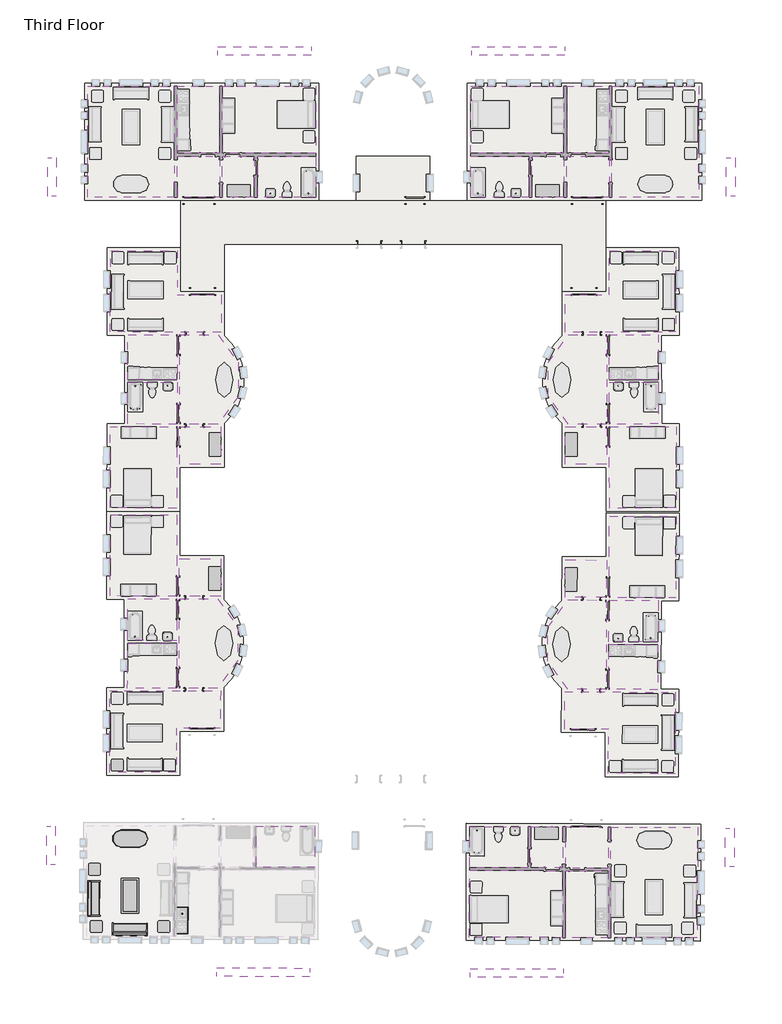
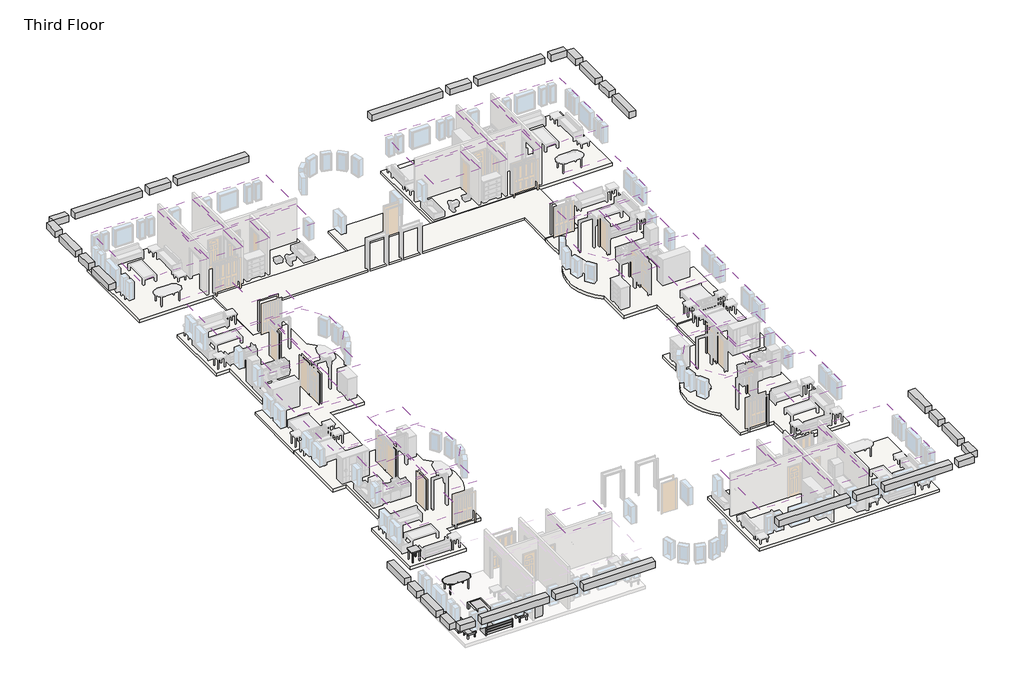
# One storey, part 3 of 5: 43 coverings, 9 slabs, 8 beams, 8 furniture elements, 1 proxy.
"""IFC4 building model written with IfcOpenShell, lengths in millimetres."""

from ifc_helpers import new_model, si_unit, point, frame, frame_2d, origin, place, context, project, spatial, polyline, circle_curve, trimmed, segment, composite_curve, outline, extrude, transform, mapped, element, save
from components import m_kitchenette_medium_1372mm_e05c6bec, m_sofa_1830mm_58d08fc1, m_table_coffee_0915_x_1830_x_0457mm_134cd960, m_table_dining_oval_0915_x_1830mm_a7cfbe21, m_table_end_cb6ea12e, m_table_end_0610_x_0160mm_ccef8dc9

model = new_model("IFC4")

# Units and contexts
model_context = context("Model", 3, world=origin())
ifc_project = project(units=[si_unit("LENGTHUNIT", "METRE", prefix="MILLI")], contexts=[model_context])

# Site, building, storey
site = spatial("IfcSite", under=ifc_project)
building = spatial("IfcBuilding", under=site)
storey = spatial("IfcBuildingStorey", under=building, Name="Third Floor", Elevation=6096.0)

# Beams
placement = place(None, origin())
element("IfcBeam", 1, ObjectType="M_Concrete-Rectangular Beam : 450 x 450", at=placement, inside=storey, context=model_context, shape_type="SweptSolid", body=[
    extrude(outline(polyline([(-1643.3416203, 4481.1188386), (-1643.3416203, 4031.1188386), (-2693.3416203, 4031.1188386), (-2693.3416203, 4481.1188386), (-1643.3416203, 4481.1188386)])), frame((0.0, 0.0, 8694.0), z_axis=(0.0, 0.0, 1.0), x_axis=(1.0, 0.0, 0.0)), (0.0, 0.0, 1.0), 450.0),
    extrude(outline(polyline([(-14885.3416203, 4031.1188386), (-14885.3416203, 4481.1188386), (-10043.3416203, 4481.1188386), (-10043.3416203, 4031.1188386), (-14885.3416203, 4031.1188386)])), frame((0.0, 0.0, 8694.0), z_axis=(0.0, 0.0, 1.0), x_axis=(1.0, 0.0, 0.0)), (0.0, 0.0, 1.0), 450.0),
    extrude(outline(polyline([(-3143.3416203, 4481.1188386), (-3143.3416203, 4031.1188386), (-7693.3416203, 4031.1188386), (-7693.3416203, 4481.1188386), (-3143.3416203, 4481.1188386)])), frame((0.0, 0.0, 8694.0), z_axis=(0.0, 0.0, 1.0), x_axis=(1.0, 0.0, 0.0)), (0.0, 0.0, 1.0), 450.0),
    extrude(outline(polyline([(-8143.3416203, 4481.1188386), (-8143.3416203, 4031.1188386), (-9593.3416203, 4031.1188386), (-9593.3416203, 4481.1188386), (-8143.3416203, 4481.1188386)])), frame((0.0, 0.0, 8694.0), z_axis=(0.0, 0.0, 1.0), x_axis=(1.0, 0.0, 0.0)), (0.0, 0.0, 1.0), 450.0),
])
element("IfcBeam", 2, ObjectType="M_Concrete-Rectangular Beam : 450 x 450", at=placement, inside=storey, context=model_context, shape_type="SweptSolid", body=[
    extrude(outline(polyline([(-1193.3416203, -3289.8811614), (-1643.3416203, -3289.8811614), (-1643.3416203, -1295.3811614), (-1193.3416203, -1295.3811614), (-1193.3416203, -3289.8811614)])), frame((0.0, 0.0, 8694.0), z_axis=(0.0, 0.0, 1.0), x_axis=(1.0, 0.0, 0.0)), (0.0, 0.0, 1.0), 450.0),
    extrude(outline(polyline([(-1643.3416203, 4031.1188386), (-1193.3416203, 4031.1188386), (-1193.3416203, 2981.1188386), (-1643.3416203, 2981.1188386), (-1643.3416203, 4031.1188386)])), frame((0.0, 0.0, 8694.0), z_axis=(0.0, 0.0, 1.0), x_axis=(1.0, 0.0, 0.0)), (0.0, 0.0, 1.0), 450.0),
    extrude(outline(polyline([(-1643.3416203, 2531.1188386), (-1193.3416203, 2531.1188386), (-1193.3416203, 681.1188386), (-1643.3416203, 681.1188386), (-1643.3416203, 2531.1188386)])), frame((0.0, 0.0, 8694.0), z_axis=(0.0, 0.0, 1.0), x_axis=(1.0, 0.0, 0.0)), (0.0, 0.0, 1.0), 450.0),
    extrude(outline(polyline([(-1643.3416203, 231.1188386), (-1193.3416203, 231.1188386), (-1193.3416203, -845.3811614), (-1643.3416203, -845.3811614), (-1643.3416203, 231.1188386)])), frame((0.0, 0.0, 8694.0), z_axis=(0.0, 0.0, 1.0), x_axis=(1.0, 0.0, 0.0)), (0.0, 0.0, 1.0), 450.0),
])
element("IfcBeam", 3, ObjectType="M_Concrete-Rectangular Beam : 450 x 450", at=placement, inside=storey, context=model_context, shape_type="SweptSolid", body=[
    extrude(outline(polyline([(-36458.8416203, 4031.1188386), (-36458.8416203, 4481.1188386), (-35408.8416203, 4481.1188386), (-35408.8416203, 4031.1188386), (-36458.8416203, 4031.1188386)])), frame((0.0, 0.0, 8694.0), z_axis=(0.0, 0.0, 1.0), x_axis=(1.0, 0.0, 0.0)), (0.0, 0.0, 1.0), 450.0),
    extrude(outline(polyline([(-23216.8416203, 4481.1188386), (-23216.8416203, 4031.1188386), (-28058.8416203, 4031.1188386), (-28058.8416203, 4481.1188386), (-23216.8416203, 4481.1188386)])), frame((0.0, 0.0, 8694.0), z_axis=(0.0, 0.0, 1.0), x_axis=(1.0, 0.0, 0.0)), (0.0, 0.0, 1.0), 450.0),
    extrude(outline(polyline([(-34958.8416203, 4031.1188386), (-34958.8416203, 4481.1188386), (-30408.8416203, 4481.1188386), (-30408.8416203, 4031.1188386), (-34958.8416203, 4031.1188386)])), frame((0.0, 0.0, 8694.0), z_axis=(0.0, 0.0, 1.0), x_axis=(1.0, 0.0, 0.0)), (0.0, 0.0, 1.0), 450.0),
    extrude(outline(polyline([(-29958.8416203, 4031.1188386), (-29958.8416203, 4481.1188386), (-28508.8416203, 4481.1188386), (-28508.8416203, 4031.1188386), (-29958.8416203, 4031.1188386)])), frame((0.0, 0.0, 8694.0), z_axis=(0.0, 0.0, 1.0), x_axis=(1.0, 0.0, 0.0)), (0.0, 0.0, 1.0), 450.0),
])
element("IfcBeam", 4, ObjectType="M_Concrete-Rectangular Beam : 450 x 450", at=placement, inside=storey, context=model_context, shape_type="SweptSolid", body=[
    extrude(outline(polyline([(-36458.8416203, -3289.8811614), (-36908.8416203, -3289.8811614), (-36908.8416203, -1295.3811614), (-36458.8416203, -1295.3811614), (-36458.8416203, -3289.8811614)])), frame((0.0, 0.0, 8694.0), z_axis=(0.0, 0.0, 1.0), x_axis=(1.0, 0.0, 0.0)), (0.0, 0.0, 1.0), 450.0),
    extrude(outline(polyline([(-36458.8416203, 2981.1188386), (-36908.8416203, 2981.1188386), (-36908.8416203, 4031.1188386), (-36458.8416203, 4031.1188386), (-36458.8416203, 2981.1188386)])), frame((0.0, 0.0, 8694.0), z_axis=(0.0, 0.0, 1.0), x_axis=(1.0, 0.0, 0.0)), (0.0, 0.0, 1.0), 450.0),
    extrude(outline(polyline([(-36908.8416203, 2531.1188386), (-36458.8416203, 2531.1188386), (-36458.8416203, 681.1188386), (-36908.8416203, 681.1188386), (-36908.8416203, 2531.1188386)])), frame((0.0, 0.0, 8694.0), z_axis=(0.0, 0.0, 1.0), x_axis=(1.0, 0.0, 0.0)), (0.0, 0.0, 1.0), 450.0),
    extrude(outline(polyline([(-36908.8416203, 231.1188386), (-36458.8416203, 231.1188386), (-36458.8416203, -845.3811614), (-36908.8416203, -845.3811614), (-36908.8416203, 231.1188386)])), frame((0.0, 0.0, 8694.0), z_axis=(0.0, 0.0, 1.0), x_axis=(1.0, 0.0, 0.0)), (0.0, 0.0, 1.0), 450.0),
])
element("IfcBeam", 5, ObjectType="M_Concrete-Rectangular Beam : 450 x 450", at=placement, inside=storey, context=model_context, shape_type="SweptSolid", body=[
    extrude(outline(polyline([(-1712.0689607, -43451.2055858), (-1713.3716449, -43901.2037003), (-2763.3672453, -43898.1641037), (-2762.0645611, -43448.1659892), (-1712.0689607, -43451.2055858)])), frame((0.0, 0.0, 8694.0), z_axis=(0.0, 0.0, 1.0), x_axis=(1.0, 0.0, 0.0)), (0.0, 0.0, 1.0), 450.0),
    extrude(outline(polyline([(-14955.3161596, -43862.8700448), (-14954.0134754, -43412.8719303), (-10112.0337638, -43426.888813), (-10113.3364481, -43876.8869274), (-14955.3161596, -43862.8700448)])), frame((0.0, 0.0, 8694.0), z_axis=(0.0, 0.0, 1.0), x_axis=(1.0, 0.0, 0.0)), (0.0, 0.0, 1.0), 450.0),
    extrude(outline(polyline([(-3212.0626755, -43446.863305), (-3213.3653598, -43896.8614194), (-7763.3462948, -43883.6898341), (-7762.0436106, -43433.6917196), (-3212.0626755, -43446.863305)])), frame((0.0, 0.0, 8694.0), z_axis=(0.0, 0.0, 1.0), x_axis=(1.0, 0.0, 0.0)), (0.0, 0.0, 1.0), 450.0),
    extrude(outline(polyline([(-8212.041725, -43432.3890354), (-8213.3444093, -43882.3871498), (-9663.3383336, -43878.1896117), (-9662.0356494, -43428.1914972), (-8212.041725, -43432.3890354)])), frame((0.0, 0.0, 8694.0), z_axis=(0.0, 0.0, 1.0), x_axis=(1.0, 0.0, 0.0)), (0.0, 0.0, 1.0), 450.0),
])
element("IfcBeam", 6, ObjectType="M_Concrete-Rectangular Beam : 450 x 450", at=placement, inside=storey, context=model_context, shape_type="SweptSolid", body=[
    extrude(outline(polyline([(-1690.8757352, -36130.2362615), (-1240.8776207, -36131.5389458), (-1246.6514068, -38126.0305886), (-1696.6495213, -38124.7279044), (-1690.8757352, -36130.2362615)])), frame((0.0, 0.0, 8694.0), z_axis=(0.0, 0.0, 1.0), x_axis=(1.0, 0.0, 0.0)), (0.0, 0.0, 1.0), 450.0),
    extrude(outline(polyline([(-1709.0293641, -42401.2099854), (-1259.0312496, -42402.5126697), (-1262.0708462, -43452.5082701), (-1712.0689607, -43451.2055858), (-1709.0293641, -42401.2099854)])), frame((0.0, 0.0, 8694.0), z_axis=(0.0, 0.0, 1.0), x_axis=(1.0, 0.0, 0.0)), (0.0, 0.0, 1.0), 450.0),
    extrude(outline(polyline([(-1257.7285653, -41952.5145552), (-1707.7266798, -41951.211871), (-1702.3712001, -40101.2196227), (-1252.3730856, -40102.5223069), (-1257.7285653, -41952.5145552)])), frame((0.0, 0.0, 8694.0), z_axis=(0.0, 0.0, 1.0), x_axis=(1.0, 0.0, 0.0)), (0.0, 0.0, 1.0), 450.0),
    extrude(outline(polyline([(-1251.0704013, -39652.5241925), (-1701.0685158, -39651.2215082), (-1697.9522056, -38574.7260188), (-1247.9540911, -38576.0287031), (-1251.0704013, -39652.5241925)])), frame((0.0, 0.0, 8694.0), z_axis=(0.0, 0.0, 1.0), x_axis=(1.0, 0.0, 0.0)), (0.0, 0.0, 1.0), 450.0),
])
element("IfcBeam", 7, ObjectType="M_Concrete-Rectangular Beam : 450 x 450", at=placement, inside=storey, context=model_context, shape_type="SweptSolid", body=[
    extrude(outline(polyline([(-36528.7257646, -43800.4179138), (-36527.4230803, -43350.4197994), (-35477.4274799, -43353.459396), (-35478.7301642, -43803.4575104), (-36528.7257646, -43800.4179138)])), frame((0.0, 0.0, 8694.0), z_axis=(0.0, 0.0, 1.0), x_axis=(1.0, 0.0, 0.0)), (0.0, 0.0, 1.0), 450.0),
    extrude(outline(polyline([(-23285.4785656, -43388.7534549), (-23286.7812498, -43838.7515694), (-28128.7609614, -43824.7346867), (-28127.4582771, -43374.7365723), (-23285.4785656, -43388.7534549)])), frame((0.0, 0.0, 8694.0), z_axis=(0.0, 0.0, 1.0), x_axis=(1.0, 0.0, 0.0)), (0.0, 0.0, 1.0), 450.0),
    extrude(outline(polyline([(-35028.7320497, -43804.7601947), (-35027.4293654, -43354.7620803), (-30477.4484304, -43367.9336656), (-30478.7511147, -43817.93178), (-35028.7320497, -43804.7601947)])), frame((0.0, 0.0, 8694.0), z_axis=(0.0, 0.0, 1.0), x_axis=(1.0, 0.0, 0.0)), (0.0, 0.0, 1.0), 450.0),
    extrude(outline(polyline([(-30028.7530002, -43819.2344643), (-30027.4503159, -43369.2363498), (-28577.4563916, -43373.433888), (-28578.7590758, -43823.4320025), (-30028.7530002, -43819.2344643)])), frame((0.0, 0.0, 8694.0), z_axis=(0.0, 0.0, 1.0), x_axis=(1.0, 0.0, 0.0)), (0.0, 0.0, 1.0), 450.0),
])
element("IfcBeam", 8, ObjectType="M_Concrete-Rectangular Beam : 450 x 450", at=placement, inside=storey, context=model_context, shape_type="SweptSolid", body=[
    extrude(outline(polyline([(-36956.2279692, -36028.1477908), (-36506.2298548, -36029.4504751), (-36512.0036409, -38023.9421179), (-36962.0017554, -38022.6394337), (-36956.2279692, -36028.1477908)])), frame((0.0, 0.0, 8694.0), z_axis=(0.0, 0.0, 1.0), x_axis=(1.0, 0.0, 0.0)), (0.0, 0.0, 1.0), 450.0),
    extrude(outline(polyline([(-36974.3815981, -42299.1215147), (-36524.3834837, -42300.424199), (-36527.4230803, -43350.4197994), (-36977.4211948, -43349.1171151), (-36974.3815981, -42299.1215147)])), frame((0.0, 0.0, 8694.0), z_axis=(0.0, 0.0, 1.0), x_axis=(1.0, 0.0, 0.0)), (0.0, 0.0, 1.0), 450.0),
    extrude(outline(polyline([(-36523.0807994, -41850.4260845), (-36973.0789139, -41849.1234003), (-36967.7234341, -39999.1311519), (-36517.7253197, -40000.4338362), (-36523.0807994, -41850.4260845)])), frame((0.0, 0.0, 8694.0), z_axis=(0.0, 0.0, 1.0), x_axis=(1.0, 0.0, 0.0)), (0.0, 0.0, 1.0), 450.0),
    extrude(outline(polyline([(-36516.4226354, -39550.4357218), (-36966.4207499, -39549.1330375), (-36963.3044396, -38472.6375481), (-36513.3063252, -38473.9402324), (-36516.4226354, -39550.4357218)])), frame((0.0, 0.0, 8694.0), z_axis=(0.0, 0.0, 1.0), x_axis=(1.0, 0.0, 0.0)), (0.0, 0.0, 1.0), 450.0),
])

# Proxy
m_kitchenette_medium_1372mm_shape = m_kitchenette_medium_1372mm_e05c6bec(model_context)
element("IfcBuildingElementProxy", 9, Name="M_Kitchenette - Medium : 1372mm", ObjectType="M_Kitchenette - Medium : 1372mm", at=placement, inside=storey, context=model_context, shape_type="MappedRepresentation", body=[
    mapped(m_kitchenette_medium_1372mm_shape, transform((-30225.732172, -40927.3256482, 6096.0), x_axis=(0.0028948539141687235, 0.9999958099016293, 0.0), y_axis=(-0.9999958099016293, 0.0028948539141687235, 0.0), z_axis=(0.0, 0.0, 1.0))),
])

# Coverings
element("IfcCovering", 10, ObjectType="Plain", at=placement, inside=storey, context=model_context, shape_type="SweptSolid", body=[
    extrude(outline(polyline([(-14935.3416203, 2406.1188386), (-10086.8416203, 2406.1188386), (-10086.8416203, -1070.3811614), (-14935.3416203, -1070.3811614), (-14935.3416203, 2406.1188386)])), frame((0.0, 0.0, 8686.0), z_axis=(0.0, 0.0, 1.0), x_axis=(1.0, 0.0, 0.0)), (0.0, 0.0, 1.0), 57.0),
])
element("IfcCovering", 11, ObjectType="Plain", at=placement, inside=storey, context=model_context, shape_type="SweptSolid", body=[
    extrude(outline(polyline([(-9951.3416203, -1070.3811614), (-9951.3416203, 2406.1188386), (-7733.0916203, 2406.1188386), (-7733.0916203, -1070.3811614), (-9951.3416203, -1070.3811614)])), frame((0.0, 0.0, 8686.0), z_axis=(0.0, 0.0, 1.0), x_axis=(1.0, 0.0, 0.0)), (0.0, 0.0, 1.0), 57.0),
])
element("IfcCovering", 12, ObjectType="Plain", at=placement, inside=storey, context=model_context, shape_type="SweptSolid", body=[
    extrude(outline(polyline([(-7597.5916203, -3339.8811614), (-7597.5916203, 2406.1188386), (-3093.3416203, 2406.1188386), (-3093.3416203, -3339.8811614), (-7597.5916203, -3339.8811614)])), frame((0.0, 0.0, 8686.0), z_axis=(0.0, 0.0, 1.0), x_axis=(1.0, 0.0, 0.0)), (0.0, 0.0, 1.0), 57.0),
])
element("IfcCovering", 13, ObjectType="Plain", at=placement, inside=storey, context=model_context, shape_type="SweptSolid", body=[
    extrude(outline(polyline([(-7733.0916203, -3339.8811614), (-9951.3416203, -3339.8811614), (-9951.3416203, -1205.8811614), (-7733.0916203, -1205.8811614), (-7733.0916203, -3339.8811614)])), frame((0.0, 0.0, 8686.0), z_axis=(0.0, 0.0, 1.0), x_axis=(1.0, 0.0, 0.0)), (0.0, 0.0, 1.0), 57.0),
])
element("IfcCovering", 14, ObjectType="Plain", at=placement, inside=storey, context=model_context, shape_type="SweptSolid", body=[
    extrude(outline(polyline([(-11887.3416203, -1205.8811614), (-11887.3416203, -3339.8811614), (-14935.3416203, -3339.8811614), (-14935.3416203, -1205.8811614), (-11887.3416203, -1205.8811614)])), frame((0.0, 0.0, 8686.0), z_axis=(0.0, 0.0, 1.0), x_axis=(1.0, 0.0, 0.0)), (0.0, 0.0, 1.0), 57.0),
])
element("IfcCovering", 15, ObjectType="Plain", at=placement, inside=storey, context=model_context, shape_type="SweptSolid", body=[
    extrude(outline(polyline([(-10086.8416203, -3339.8811614), (-11751.8416203, -3339.8811614), (-11751.8416203, -1205.8811614), (-10086.8416203, -1205.8811614), (-10086.8416203, -3339.8811614)])), frame((0.0, 0.0, 8686.0), z_axis=(0.0, 0.0, 1.0), x_axis=(1.0, 0.0, 0.0)), (0.0, 0.0, 1.0), 57.0),
])
element("IfcCovering", 16, ObjectType="Plain", at=placement, inside=storey, context=model_context, shape_type="SweptSolid", body=[
    extrude(outline(polyline([(-7719.603401, -17382.7647995), (-7726.8533934, -17382.7752934), (-7729.9194088, -15264.5275123), (-5002.0722663, -15260.5791445), (-5002.0617724, -15267.829137), (-4262.662547, -15266.7589083), (-4256.5515039, -19488.7544857), (-7716.5478795, -19493.7625882), (-7719.603401, -17382.7647995)])), frame((0.0, 0.0, 8687.0), z_axis=(0.0, 0.0, 1.0), x_axis=(1.0, 0.0, 0.0)), (0.0, 0.0, 1.0), 57.0),
])
element("IfcCovering", 17, ObjectType="Plain", at=placement, inside=storey, context=model_context, shape_type="SweptSolid", body=[
    extrude(outline(polyline([(-7730.1155353, -15129.0276542), (-7733.2504483, -12963.179923), (-5180.4031225, -12959.4848553), (-5177.2682095, -15125.3325865), (-7730.1155353, -15129.0276542)])), frame((0.0, 0.0, 8687.0), z_axis=(0.0, 0.0, 1.0), x_axis=(1.0, 0.0, 0.0)), (0.0, 0.0, 1.0), 57.0),
])
element("IfcCovering", 18, ObjectType="Plain", at=placement, inside=storey, context=model_context, shape_type="SweptSolid", body=[
    extrude(outline(polyline([(-7733.4465749, -12827.680065), (-7736.8265375, -10492.5325111), (-5183.9792116, -10488.8374433), (-5180.599249, -12823.9849972), (-7733.4465749, -12827.680065)])), frame((0.0, 0.0, 8687.0), z_axis=(0.0, 0.0, 1.0), x_axis=(1.0, 0.0, 0.0)), (0.0, 0.0, 1.0), 57.0),
])
element("IfcCovering", 19, ObjectType="Plain", at=placement, inside=storey, context=model_context, shape_type="SweptSolid", body=[
    extrude(outline(polyline([(-10015.770277, -10360.3309807), (-10018.5829924, -8417.0830163), (-7732.585387, -8413.7741948), (-7735.8942085, -6127.7765894), (-4275.8978329, -6122.7684869), (-4269.7867899, -10344.7640643), (-5009.1860154, -10345.8342929), (-5009.1755215, -10353.0842853), (-10015.770277, -10360.3309807)])), frame((0.0, 0.0, 8687.0), z_axis=(0.0, 0.0, 1.0), x_axis=(1.0, 0.0, 0.0)), (0.0, 0.0, 1.0), 57.0),
])
element("IfcCovering", 20, ObjectType="Plain", at=placement, inside=storey, context=model_context, shape_type="SweptSolid", body=[
    extrude(outline(composite_curve([segment(polyline([(-9871.5226854, -10495.6223343), (-7872.3263955, -10492.7286377), (-7865.6153934, -15129.2237808), (-9864.8116833, -15132.1174775)]), True, "CONTINUOUS"), segment(trimmed(circle_curve(frame_2d((-8171.1580789, -12811.413604)), 2873.0), [point((-9864.8116833, -15132.1174775))], [point((-9871.5226854, -10495.6223343))], False, "CARTESIAN"), True, "CONTINUOUS")], self_intersect=False)), frame((0.0, 0.0, 8687.0), z_axis=(0.0, 0.0, 1.0), x_axis=(1.0, 0.0, 0.0)), (0.0, 0.0, 1.0), 57.0),
])
element("IfcCovering", 21, ObjectType="Plain", at=placement, inside=storey, context=model_context, shape_type="SweptSolid", body=[
    extrude(outline(polyline([(-10008.6670217, -15267.8258399), (-7865.4192668, -15264.7236389), (-7862.6065515, -17207.9716033), (-10005.8543064, -17211.0738043), (-10008.6670217, -15267.8258399)])), frame((0.0, 0.0, 8687.0), z_axis=(0.0, 0.0, 1.0), x_axis=(1.0, 0.0, 0.0)), (0.0, 0.0, 1.0), 57.0),
])
element("IfcCovering", 22, ObjectType="Plain", at=placement, inside=storey, context=model_context, shape_type="SweptSolid", body=[
    extrude(outline(polyline([(-22978.8416203, 2406.1188386), (-22978.8416203, -1070.3811614), (-27827.3416203, -1070.3811614), (-27827.3416203, 2406.1188386), (-22978.8416203, 2406.1188386)])), frame((0.0, 0.0, 8686.0), z_axis=(0.0, 0.0, 1.0), x_axis=(1.0, 0.0, 0.0)), (0.0, 0.0, 1.0), 57.0),
])
element("IfcCovering", 23, ObjectType="Plain", at=placement, inside=storey, context=model_context, shape_type="SweptSolid", body=[
    extrude(outline(polyline([(-27962.8416203, -1070.3811614), (-30181.0916203, -1070.3811614), (-30181.0916203, 2406.1188386), (-27962.8416203, 2406.1188386), (-27962.8416203, -1070.3811614)])), frame((0.0, 0.0, 8686.0), z_axis=(0.0, 0.0, 1.0), x_axis=(1.0, 0.0, 0.0)), (0.0, 0.0, 1.0), 57.0),
])
element("IfcCovering", 24, ObjectType="Plain", at=placement, inside=storey, context=model_context, shape_type="SweptSolid", body=[
    extrude(outline(polyline([(-30316.5916203, -3339.8811614), (-34820.8416203, -3339.8811614), (-34820.8416203, 2406.1188386), (-30316.5916203, 2406.1188386), (-30316.5916203, -3339.8811614)])), frame((0.0, 0.0, 8686.0), z_axis=(0.0, 0.0, 1.0), x_axis=(1.0, 0.0, 0.0)), (0.0, 0.0, 1.0), 57.0),
])
element("IfcCovering", 25, ObjectType="Plain", at=placement, inside=storey, context=model_context, shape_type="SweptSolid", body=[
    extrude(outline(polyline([(-30181.0916203, -3339.8811614), (-30181.0916203, -1205.8811614), (-27962.8416203, -1205.8811614), (-27962.8416203, -3339.8811614), (-30181.0916203, -3339.8811614)])), frame((0.0, 0.0, 8686.0), z_axis=(0.0, 0.0, 1.0), x_axis=(1.0, 0.0, 0.0)), (0.0, 0.0, 1.0), 57.0),
])
element("IfcCovering", 26, ObjectType="Plain", at=placement, inside=storey, context=model_context, shape_type="SweptSolid", body=[
    extrude(outline(polyline([(-26026.8416203, -1205.8811614), (-22978.8416203, -1205.8811614), (-22978.8416203, -3339.8811614), (-26026.8416203, -3339.8811614), (-26026.8416203, -1205.8811614)])), frame((0.0, 0.0, 8686.0), z_axis=(0.0, 0.0, 1.0), x_axis=(1.0, 0.0, 0.0)), (0.0, 0.0, 1.0), 57.0),
])
element("IfcCovering", 27, ObjectType="Plain", at=placement, inside=storey, context=model_context, shape_type="SweptSolid", body=[
    extrude(outline(polyline([(-27827.3416203, -3339.8811614), (-27827.3416203, -1205.8811614), (-26162.3416203, -1205.8811614), (-26162.3416203, -3339.8811614), (-27827.3416203, -3339.8811614)])), frame((0.0, 0.0, 8686.0), z_axis=(0.0, 0.0, 1.0), x_axis=(1.0, 0.0, 0.0)), (0.0, 0.0, 1.0), 57.0),
])
element("IfcCovering", 28, ObjectType="Plain", at=placement, inside=storey, context=model_context, shape_type="SweptSolid", body=[
    extrude(outline(polyline([(-30194.5798396, -17382.7647995), (-30197.6353611, -19493.7625882), (-33657.6317367, -19488.7544857), (-33651.5206937, -15266.7589083), (-32912.1214682, -15267.829137), (-32912.1109744, -15260.5791445), (-30184.2638319, -15264.5275123), (-30187.3298472, -17382.7752934), (-30194.5798396, -17382.7647995)])), frame((0.0, 0.0, 8687.0), z_axis=(0.0, 0.0, 1.0), x_axis=(1.0, 0.0, 0.0)), (0.0, 0.0, 1.0), 57.0),
])
element("IfcCovering", 29, ObjectType="Plain", at=placement, inside=storey, context=model_context, shape_type="SweptSolid", body=[
    extrude(outline(polyline([(-30184.0677053, -15129.0276542), (-32736.9150311, -15125.3325865), (-32733.7801182, -12959.4848553), (-30180.9327923, -12963.179923), (-30184.0677053, -15129.0276542)])), frame((0.0, 0.0, 8687.0), z_axis=(0.0, 0.0, 1.0), x_axis=(1.0, 0.0, 0.0)), (0.0, 0.0, 1.0), 57.0),
])
element("IfcCovering", 30, ObjectType="Plain", at=placement, inside=storey, context=model_context, shape_type="SweptSolid", body=[
    extrude(outline(polyline([(-30180.7366658, -12827.680065), (-32733.5839916, -12823.9849972), (-32730.204029, -10488.8374433), (-30177.3567032, -10492.5325111), (-30180.7366658, -12827.680065)])), frame((0.0, 0.0, 8687.0), z_axis=(0.0, 0.0, 1.0), x_axis=(1.0, 0.0, 0.0)), (0.0, 0.0, 1.0), 57.0),
])
element("IfcCovering", 31, ObjectType="Plain", at=placement, inside=storey, context=model_context, shape_type="SweptSolid", body=[
    extrude(outline(polyline([(-27898.4129637, -10360.3309807), (-32905.0077191, -10353.0842853), (-32904.9972253, -10345.8342929), (-33644.3964507, -10344.7640643), (-33638.2854077, -6122.7684869), (-30178.2890322, -6127.7765894), (-30181.5978537, -8413.7741948), (-27895.6002483, -8417.0830163), (-27898.4129637, -10360.3309807)])), frame((0.0, 0.0, 8687.0), z_axis=(0.0, 0.0, 1.0), x_axis=(1.0, 0.0, 0.0)), (0.0, 0.0, 1.0), 57.0),
])
element("IfcCovering", 32, ObjectType="Plain", at=placement, inside=storey, context=model_context, shape_type="SweptSolid", body=[
    extrude(outline(composite_curve([segment(trimmed(circle_curve(frame_2d((-29743.0251618, -12811.413604)), 2873.0), [point((-28042.6605552, -10495.6223343))], [point((-28049.3715573, -15132.1174775))], False, "CARTESIAN"), True, "CONTINUOUS"), segment(polyline([(-28049.3715573, -15132.1174775), (-30048.5678472, -15129.2237808), (-30041.8568451, -10492.7286377), (-28042.6605552, -10495.6223343)]), True, "CONTINUOUS")], self_intersect=False)), frame((0.0, 0.0, 8687.0), z_axis=(0.0, 0.0, 1.0), x_axis=(1.0, 0.0, 0.0)), (0.0, 0.0, 1.0), 57.0),
])
element("IfcCovering", 33, ObjectType="Plain", at=placement, inside=storey, context=model_context, shape_type="SweptSolid", body=[
    extrude(outline(polyline([(-27905.5162189, -15267.8258399), (-27908.3289343, -17211.0738043), (-30051.5766892, -17207.9716033), (-30048.7639738, -15264.7236389), (-27905.5162189, -15267.8258399)])), frame((0.0, 0.0, 8687.0), z_axis=(0.0, 0.0, 1.0), x_axis=(1.0, 0.0, 0.0)), (0.0, 0.0, 1.0), 57.0),
])
element("IfcCovering", 34, ObjectType="Plain", at=placement, inside=storey, context=model_context, shape_type="SweptSolid", body=[
    extrude(outline(polyline([(-14999.3091283, -41787.7339965), (-14989.2451686, -38311.2485634), (-10140.7654843, -38325.2842626), (-10150.829444, -41801.7696957), (-14999.3091283, -41787.7339965)])), frame((0.0, 0.0, 8686.0), z_axis=(0.0, 0.0, 1.0), x_axis=(1.0, 0.0, 0.0)), (0.0, 0.0, 1.0), 57.0),
])
element("IfcCovering", 35, ObjectType="Plain", at=placement, inside=storey, context=model_context, shape_type="SweptSolid", body=[
    extrude(outline(polyline([(-10005.2660521, -38325.6765153), (-7787.0253468, -38332.098025), (-7797.0893064, -41808.5834581), (-10015.3300117, -41802.1619484), (-10005.2660521, -38325.6765153)])), frame((0.0, 0.0, 8686.0), z_axis=(0.0, 0.0, 1.0), x_axis=(1.0, 0.0, 0.0)), (0.0, 0.0, 1.0), 57.0),
])
element("IfcCovering", 36, ObjectType="Plain", at=placement, inside=storey, context=model_context, shape_type="SweptSolid", body=[
    extrude(outline(polyline([(-7644.9560436, -36062.9997871), (-3140.7249168, -36076.0389329), (-3157.3587474, -41822.0148566), (-7661.5898742, -41808.9757108), (-7644.9560436, -36062.9997871)])), frame((0.0, 0.0, 8686.0), z_axis=(0.0, 0.0, 1.0), x_axis=(1.0, 0.0, 0.0)), (0.0, 0.0, 1.0), 57.0),
])
element("IfcCovering", 37, ObjectType="Plain", at=placement, inside=storey, context=model_context, shape_type="SweptSolid", body=[
    extrude(outline(polyline([(-7780.4554758, -36062.6075344), (-7786.6330941, -38196.5985928), (-10004.8737994, -38190.1770831), (-9998.6961811, -36056.1860247), (-7780.4554758, -36062.6075344)])), frame((0.0, 0.0, 8686.0), z_axis=(0.0, 0.0, 1.0), x_axis=(1.0, 0.0, 0.0)), (0.0, 0.0, 1.0), 57.0),
])
element("IfcCovering", 38, ObjectType="Plain", at=placement, inside=storey, context=model_context, shape_type="SweptSolid", body=[
    extrude(outline(polyline([(-11940.8656874, -38184.5726459), (-14988.8529159, -38175.7491311), (-14982.6752977, -36041.7580728), (-11934.6880691, -36050.5815875), (-11940.8656874, -38184.5726459)])), frame((0.0, 0.0, 8686.0), z_axis=(0.0, 0.0, 1.0), x_axis=(1.0, 0.0, 0.0)), (0.0, 0.0, 1.0), 57.0),
])
element("IfcCovering", 39, ObjectType="Plain", at=placement, inside=storey, context=model_context, shape_type="SweptSolid", body=[
    extrude(outline(polyline([(-10134.1956134, -36055.793772), (-10140.3732316, -38189.7848304), (-11805.3662551, -38184.9648986), (-11799.1886369, -36050.9738403), (-10134.1956134, -36055.793772)])), frame((0.0, 0.0, 8686.0), z_axis=(0.0, 0.0, 1.0), x_axis=(1.0, 0.0, 0.0)), (0.0, 0.0, 1.0), 57.0),
])
element("IfcCovering", 40, ObjectType="Plain", at=placement, inside=storey, context=model_context, shape_type="SweptSolid", body=[
    extrude(outline(polyline([(-7726.3152164, -22019.8217838), (-7717.1486774, -19908.8416857), (-4257.1812973, -19923.8659512), (-4275.5143752, -24145.8261474), (-5014.9074043, -24142.6154706), (-5014.9388858, -24149.8654022), (-7742.7631684, -24138.020332), (-7733.565148, -22019.7903023), (-7726.3152164, -22019.8217838)])), frame((0.0, 0.0, 8687.0), z_axis=(0.0, 0.0, 1.0), x_axis=(1.0, 0.0, 0.0)), (0.0, 0.0, 1.0), 57.0),
])
element("IfcCovering", 41, ObjectType="Plain", at=placement, inside=storey, context=model_context, shape_type="SweptSolid", body=[
    extrude(outline(polyline([(-7743.3515464, -24273.5190546), (-5190.525614, -24284.6042269), (-5199.9303266, -26450.4338079), (-7752.756259, -26439.3486356), (-7743.3515464, -24273.5190546)])), frame((0.0, 0.0, 8687.0), z_axis=(0.0, 0.0, 1.0), x_axis=(1.0, 0.0, 0.0)), (0.0, 0.0, 1.0), 57.0),
])
element("IfcCovering", 42, ObjectType="Plain", at=placement, inside=storey, context=model_context, shape_type="SweptSolid", body=[
    extrude(outline(polyline([(-7753.3446371, -26574.8473581), (-5200.5187046, -26585.9325305), (-5210.6585641, -28921.0605153), (-7763.4844965, -28909.975343), (-7753.3446371, -26574.8473581)])), frame((0.0, 0.0, 8687.0), z_axis=(0.0, 0.0, 1.0), x_axis=(1.0, 0.0, 0.0)), (0.0, 0.0, 1.0), 57.0),
])
element("IfcCovering", 43, ObjectType="Plain", at=placement, inside=storey, context=model_context, shape_type="SweptSolid", body=[
    extrude(outline(polyline([(-10042.8013912, -29035.5791103), (-5036.248592, -29057.3191357), (-5036.2800734, -29064.5690674), (-4296.8870443, -29067.7797442), (-4315.2201221, -33289.7399404), (-7775.1875022, -33274.7156749), (-7765.2610655, -30988.7372266), (-10051.2395137, -30978.8107899), (-10042.8013912, -29035.5791103)])), frame((0.0, 0.0, 8687.0), z_axis=(0.0, 0.0, 1.0), x_axis=(1.0, 0.0, 0.0)), (0.0, 0.0, 1.0), 57.0),
])
element("IfcCovering", 44, ObjectType="Plain", at=placement, inside=storey, context=model_context, shape_type="SweptSolid", body=[
    extrude(outline(composite_curve([segment(trimmed(circle_curve(frame_2d((-8191.1013961, -26589.84664)), 2873.0), [point((-9898.1627553, -28900.7058992))], [point((-9878.0298052, -24264.2496108))], False, "CARTESIAN"), True, "CONTINUOUS"), segment(polyline([(-9878.0298052, -24264.2496108), (-7878.850269, -24272.9306765), (-7898.9832191, -28909.3869649), (-9898.1627553, -28900.7058992)]), True, "CONTINUOUS")], self_intersect=False)), frame((0.0, 0.0, 8687.0), z_axis=(0.0, 0.0, 1.0), x_axis=(1.0, 0.0, 0.0)), (0.0, 0.0, 1.0), 57.0),
])
element("IfcCovering", 45, ObjectType="Plain", at=placement, inside=storey, context=model_context, shape_type="SweptSolid", body=[
    extrude(outline(polyline([(-10021.491685, -24128.1253768), (-10013.0535624, -22184.8936972), (-7869.8237684, -22194.2002744), (-7878.2618909, -24137.431954), (-10021.491685, -24128.1253768)])), frame((0.0, 0.0, 8687.0), z_axis=(0.0, 0.0, 1.0), x_axis=(1.0, 0.0, 0.0)), (0.0, 0.0, 1.0), 57.0),
])
element("IfcCovering", 46, ObjectType="Plain", at=placement, inside=storey, context=model_context, shape_type="SweptSolid", body=[
    extrude(outline(polyline([(-26080.3064415, -38143.640859), (-26074.1288232, -36009.6498006), (-23026.1415946, -36018.4733154), (-23032.3192129, -38152.4643737), (-26080.3064415, -38143.640859)])), frame((0.0, 0.0, 8686.0), z_axis=(0.0, 0.0, 1.0), x_axis=(1.0, 0.0, 0.0)), (0.0, 0.0, 1.0), 57.0),
])
element("IfcCovering", 47, ObjectType="Plain", at=placement, inside=storey, context=model_context, shape_type="SweptSolid", body=[
    extrude(outline(polyline([(-30201.1974826, -21954.7600102), (-30193.9474902, -21954.7705041), (-30197.0135056, -24073.0182852), (-32924.8606481, -24069.0699174), (-32924.8501542, -24061.819925), (-33664.2493797, -24060.7496964), (-33658.1383367, -19838.7541191), (-30198.1419611, -19843.7622216), (-30201.1974826, -21954.7600102)])), frame((0.0, 0.0, 8687.0), z_axis=(0.0, 0.0, 1.0), x_axis=(1.0, 0.0, 0.0)), (0.0, 0.0, 1.0), 57.0),
])
element("IfcCovering", 48, ObjectType="Plain", at=placement, inside=storey, context=model_context, shape_type="SweptSolid", body=[
    extrude(outline(polyline([(-30197.2096321, -24208.5181432), (-30200.3445451, -26374.3658745), (-32753.1918709, -26370.6708067), (-32750.056958, -24204.8230755), (-30197.2096321, -24208.5181432)])), frame((0.0, 0.0, 8687.0), z_axis=(0.0, 0.0, 1.0), x_axis=(1.0, 0.0, 0.0)), (0.0, 0.0, 1.0), 57.0),
])
element("IfcCovering", 49, ObjectType="Plain", at=placement, inside=storey, context=model_context, shape_type="SweptSolid", body=[
    extrude(outline(polyline([(-30200.5406716, -26509.8657325), (-30203.9206342, -28845.0132864), (-32756.7679601, -28841.3182186), (-32753.3879975, -26506.1706647), (-30200.5406716, -26509.8657325)])), frame((0.0, 0.0, 8687.0), z_axis=(0.0, 0.0, 1.0), x_axis=(1.0, 0.0, 0.0)), (0.0, 0.0, 1.0), 57.0),
])
element("IfcCovering", 50, ObjectType="Plain", at=placement, inside=storey, context=model_context, shape_type="SweptSolid", body=[
    extrude(outline(polyline([(-27925.3691479, -28983.8114721), (-27928.1818632, -30927.0594365), (-30214.1794686, -30923.750615), (-30217.4882901, -33209.7482204), (-33677.4846656, -33204.7401178), (-33671.3736226, -28982.7445405), (-32931.9743972, -28983.8147691), (-32931.9639033, -28976.5647767), (-27925.3691479, -28983.8114721)])), frame((0.0, 0.0, 8687.0), z_axis=(0.0, 0.0, 1.0), x_axis=(1.0, 0.0, 0.0)), (0.0, 0.0, 1.0), 57.0),
])
element("IfcCovering", 51, ObjectType="Plain", at=placement, inside=storey, context=model_context, shape_type="SweptSolid", body=[
    extrude(outline(composite_curve([segment(polyline([(-28069.2244863, -28848.1031096), (-30068.4207762, -28845.209413), (-30061.7097741, -24208.7142698), (-28062.5134842, -24211.6079665)]), True, "CONTINUOUS"), segment(trimmed(circle_curve(frame_2d((-29762.8780907, -26527.3992362)), 2873.0), [point((-28062.5134842, -24211.6079665))], [point((-28069.2244863, -28848.1031096))], False, "CARTESIAN"), True, "CONTINUOUS")], self_intersect=False)), frame((0.0, 0.0, 8687.0), z_axis=(0.0, 0.0, 1.0), x_axis=(1.0, 0.0, 0.0)), (0.0, 0.0, 1.0), 57.0),
])
element("IfcCovering", 52, ObjectType="Plain", at=placement, inside=storey, context=model_context, shape_type="SweptSolid", body=[
    extrude(outline(polyline([(-27918.2658926, -24076.3166128), (-30061.5136475, -24073.2144117), (-30058.7009321, -22129.9664473), (-27915.4531772, -22133.0686484), (-27918.2658926, -24076.3166128)])), frame((0.0, 0.0, 8687.0), z_axis=(0.0, 0.0, 1.0), x_axis=(1.0, 0.0, 0.0)), (0.0, 0.0, 1.0), 57.0),
])

# Furniture
m_sofa_1830mm_shape = m_sofa_1830mm_58d08fc1(model_context)
element("IfcFurniture", 53, ObjectType="M_Sofa : 1830mm", at=placement, inside=storey, context=model_context, shape_type="MappedRepresentation", body=[
    mapped(m_sofa_1830mm_shape, transform((-32562.8997947, -41230.7335351, 6096.0), x_axis=(-0.9999958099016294, 0.0028948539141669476, 0.0), y_axis=(-0.0028948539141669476, -0.9999958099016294, 0.0), z_axis=(0.0, 0.0, 1.0))),
])
element("IfcFurniture", 54, ObjectType="M_Sofa : 1830mm", at=placement, inside=storey, context=model_context, shape_type="MappedRepresentation", body=[
    mapped(m_sofa_1830mm_shape, transform((-34355.4280294, -39842.8427064, 6096.0), x_axis=(0.0028948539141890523, 0.9999958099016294, 0.0), y_axis=(-0.9999958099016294, 0.0028948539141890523, 0.0), z_axis=(0.0, 0.0, 1.0))),
])
m_table_coffee_0915_x_1830_x_0457mm_shape = m_table_coffee_0915_x_1830_x_0457mm_134cd960(model_context)
element("IfcFurniture", 55, ObjectType="M_Table-Coffee : 0915 x 1830 x 0457mm", at=placement, inside=storey, context=model_context, shape_type="MappedRepresentation", body=[
    mapped(m_table_coffee_0915_x_1830_x_0457mm_shape, transform((-32723.8138427, -39618.1492872, 6096.0), x_axis=(-0.0028948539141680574, -0.9999958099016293, 0.0), y_axis=(0.9999958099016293, -0.0028948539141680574, 0.0), z_axis=(0.0, 0.0, 1.0))),
])
m_table_dining_oval_0915_x_1830mm_shape = m_table_dining_oval_0915_x_1830mm_a7cfbe21(model_context)
element("IfcFurniture", 56, ObjectType="M_Table-Dining Oval : 0915 x 1830mm", at=placement, inside=storey, context=model_context, shape_type="MappedRepresentation", body=[
    mapped(m_table_dining_oval_0915_x_1830mm_shape, transform((-33022.9144028, -37024.136693, 6096.0), x_axis=(-0.9999958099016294, 0.0028948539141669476, 0.0), y_axis=(-0.0028948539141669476, -0.9999958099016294, 0.0), z_axis=(0.0, 0.0, 1.0))),
])
m_table_end_shape = m_table_end_cb6ea12e(model_context)
element("IfcFurniture", 57, ObjectType="M_Table-End : 0610 x 0160mm altered height", at=placement, inside=storey, context=model_context, shape_type="MappedRepresentation", body=[
    mapped(m_table_end_shape, transform((-30569.1071738, -41085.2587623, 6096.0), x_axis=(-0.9999958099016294, 0.0028948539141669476, 0.0), y_axis=(-0.0028948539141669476, -0.9999958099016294, 0.0), z_axis=(0.0, 0.0, 1.0))),
])
element("IfcFurniture", 58, ObjectType="M_Table-End : 0610 x 0160mm altered height", at=placement, inside=storey, context=model_context, shape_type="MappedRepresentation", body=[
    mapped(m_table_end_shape, transform((-34069.0925084, -41075.1267736, 6096.0), x_axis=(-0.9999958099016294, 0.0028948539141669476, 0.0), y_axis=(-0.0028948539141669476, -0.9999958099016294, 0.0), z_axis=(0.0, 0.0, 1.0))),
])
element("IfcFurniture", 59, ObjectType="M_Table-End : 0610 x 0160mm altered height", at=placement, inside=storey, context=model_context, shape_type="MappedRepresentation", body=[
    mapped(m_table_end_shape, transform((-34160.490031, -38103.349739, 6096.0), x_axis=(-0.9999958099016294, 0.0028948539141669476, 0.0), y_axis=(-0.0028948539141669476, -0.9999958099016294, 0.0), z_axis=(0.0, 0.0, 1.0))),
])
m_table_end_0610_x_0160mm_shape = m_table_end_0610_x_0160mm_ccef8dc9(model_context)
element("IfcFurniture", 60, ObjectType="M_Table-End : 0610 x 0160mm", at=placement, inside=storey, context=model_context, shape_type="MappedRepresentation", body=[
    mapped(m_table_end_0610_x_0160mm_shape, transform((-33139.1100473, -32531.7850414, 6096.0), x_axis=(-0.0014474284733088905, -0.9999989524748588, 0.0), y_axis=(0.9999989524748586, -0.0014474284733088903, 0.0), z_axis=(0.0, 0.0, 0.9999999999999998))),
])

# Slabs
element("IfcSlab", 61, ObjectType="160mm Concrete With 50mm Metal Deck", at=placement, inside=storey, context=model_context, shape_type="SweptSolid", body=[
    extrude(outline(polyline([(-2928.3416203, 2571.1188386), (-2928.3416203, -3504.8811614), (-15100.3416203, -3504.8811614), (-15100.3416203, 2571.1188386), (-2928.3416203, 2571.1188386)])), frame((0.0, 0.0, 5886.0), z_axis=(0.0, 0.0, 1.0), x_axis=(1.0, 0.0, 0.0)), (0.0, 0.0, 1.0), 210.0),
])
element("IfcSlab", 62, ObjectType="160mm Concrete With 50mm Metal Deck", at=placement, inside=storey, context=model_context, shape_type="SweptSolid", body=[
    extrude(outline(composite_curve([segment(polyline([(-4091.3128511, -19653.5154871), (-7881.308881, -19659.0012411), (-7884.6177025, -17373.0036357), (-10170.6153078, -17376.3124572), (-10173.9161954, -15095.7962179)]), True, "CONTINUOUS"), segment(trimmed(circle_curve(frame_2d((-8171.1580789, -12811.413604)), 3038.0), [point((-10173.9161954, -15095.7962179))], [point((-10180.5207576, -10532.8382541))], False, "CARTESIAN"), True, "CONTINUOUS"), segment(polyline([(-10180.5207576, -10532.8382541), (-10183.8216452, -8252.3220148), (-7897.8240398, -8249.0131933), (-7901.1328613, -5963.015588), (-4111.1368315, -5957.5298341), (-4104.548137, -10509.5250657), (-5018.9471792, -10510.8485943), (-5012.3005876, -15102.8437841), (-4097.9015455, -15101.5202555), (-4091.3128511, -19653.5154871)]), True, "CONTINUOUS")], self_intersect=False)), frame((0.0, 0.0, 5886.0), z_axis=(0.0, 0.0, 1.0), x_axis=(1.0, 0.0, 0.0)), (0.0, 0.0, 1.0), 210.0),
])
element("IfcSlab", 63, ObjectType="160mm Concrete With 50mm Metal Deck", at=placement, inside=storey, context=model_context, shape_type="SweptSolid", body=[
    extrude(outline(polyline([(-34985.8416203, 2571.1188386), (-22813.8416203, 2571.1188386), (-22813.8416203, -3504.8811614), (-34985.8416203, -3504.8811614), (-34985.8416203, 2571.1188386)])), frame((0.0, 0.0, 5886.0), z_axis=(0.0, 0.0, 1.0), x_axis=(1.0, 0.0, 0.0)), (0.0, 0.0, 1.0), 210.0),
])
element("IfcSlab", 64, ObjectType="160mm Concrete With 50mm Metal Deck", at=placement, inside=storey, context=model_context, shape_type="SweptSolid", body=[
    extrude(outline(composite_curve([segment(polyline([(-33822.8703896, -19653.5154871), (-33816.2816951, -15101.5202555), (-32901.882653, -15102.8437841), (-32895.2360615, -10510.8485943), (-33809.6351036, -10509.5250657), (-33803.0464092, -5957.5298341), (-30013.0503793, -5963.015588), (-30016.3592008, -8249.0131933), (-27730.3615954, -8252.3220148), (-27733.662483, -10532.8382541)]), True, "CONTINUOUS"), segment(trimmed(circle_curve(frame_2d((-29743.0251618, -12811.413604)), 3038.0), [point((-27733.662483, -10532.8382541))], [point((-27740.2670452, -15095.7962179))], False, "CARTESIAN"), True, "CONTINUOUS"), segment(polyline([(-27740.2670452, -15095.7962179), (-27743.5679328, -17376.3124572), (-30029.5655382, -17373.0036357), (-30032.8743597, -19659.0012411), (-33822.8703896, -19653.5154871)]), True, "CONTINUOUS")], self_intersect=False)), frame((0.0, 0.0, 5886.0), z_axis=(0.0, 0.0, 1.0), x_axis=(1.0, 0.0, 0.0)), (0.0, 0.0, 1.0), 210.0),
])
element("IfcSlab", 65, ObjectType="160mm Concrete With 50mm Metal Deck", at=placement, inside=storey, context=model_context, shape_type="SweptSolid", body=[
    extrude(outline(polyline([(-2992.8370897, -41987.4918161), (-15164.7860878, -41952.2556543), (-15147.1969554, -35876.2811133), (-2975.2479573, -35911.5172751), (-2992.8370897, -41987.4918161)])), frame((0.0, 0.0, 5886.0), z_axis=(0.0, 0.0, 1.0), x_axis=(1.0, 0.0, 0.0)), (0.0, 0.0, 1.0), 210.0),
])
element("IfcSlab", 66, ObjectType="160mm Concrete With 50mm Metal Deck", at=placement, inside=storey, context=model_context, shape_type="SweptSolid", body=[
    extrude(outline(composite_curve([segment(polyline([(-4091.4663778, -19759.5839819), (-4111.2324058, -24311.541067), (-5025.6237851, -24307.5704923), (-5045.5635041, -28899.5272002), (-4131.1721248, -28903.4977749), (-4150.9381528, -33455.45486), (-7940.9024218, -33438.9976442), (-7930.975985, -31153.0191959), (-10216.9544333, -31143.0927592), (-10207.0517981, -28862.5956311)]), True, "CONTINUOUS"), segment(trimmed(circle_curve(frame_2d((-8191.1013961, -26589.84664)), 3038.0), [point((-10207.0517981, -28862.5956311))], [point((-10187.2381669, -24299.6759058))], False, "CARTESIAN"), True, "CONTINUOUS"), segment(polyline([(-10187.2381669, -24299.6759058), (-10177.3355318, -22019.1787777), (-7891.3570835, -22029.1052144), (-7881.4306468, -19743.1267661), (-4091.4663778, -19759.5839819)]), True, "CONTINUOUS")], self_intersect=False)), frame((0.0, 0.0, 5886.0), z_axis=(0.0, 0.0, 1.0), x_axis=(1.0, 0.0, 0.0)), (0.0, 0.0, 1.0), 210.0),
])
element("IfcSlab", 67, ObjectType="160mm Concrete With 50mm Metal Deck", at=placement, inside=storey, context=model_context, shape_type="SweptSolid", body=[
    extrude(outline(composite_curve([segment(polyline([(-33822.8993381, -19673.5154662), (-30032.9033083, -19679.0012201), (-30036.2121297, -21964.9988255), (-27750.2145244, -21968.307647), (-27753.515412, -24248.8238862)]), True, "CONTINUOUS"), segment(trimmed(circle_curve(frame_2d((-29762.8780907, -26527.3992362)), 3038.0), [point((-27753.515412, -24248.8238862))], [point((-27760.1199742, -28811.7818501))], False, "CARTESIAN"), True, "CONTINUOUS"), segment(polyline([(-27760.1199742, -28811.7818501), (-27763.4208618, -31092.2980893), (-30049.4184671, -31088.9892679), (-30052.7272886, -33374.9868732), (-33842.7233185, -33369.5011193), (-33836.1346241, -28817.5058876), (-32921.7355819, -28818.8294162), (-32915.0889904, -24226.8342265), (-33829.4880325, -24225.5106979), (-33822.8993381, -19673.5154662)]), True, "CONTINUOUS")], self_intersect=False)), frame((0.0, 0.0, 5886.0), z_axis=(0.0, 0.0, 1.0), x_axis=(1.0, 0.0, 0.0)), (0.0, 0.0, 1.0), 210.0),
])
element("IfcSlab", 68, ObjectType="Generic 150mm", at=placement, inside=storey, context=model_context, shape_type="SweptSolid", body=[
    extrude(outline(polyline([(-7918.0916203, -3524.8811614), (-7918.0916203, -8229.2811614), (-10184.0916203, -8229.2811614), (-10184.0916203, -5790.8811614), (-27730.0916203, -5790.8811614), (-27730.0916203, -8229.2811614), (-29996.0916203, -8229.2811614), (-29996.0916203, -3524.8811614), (-7918.0916203, -3524.8811614)])), frame((0.0, 0.0, 5946.0), z_axis=(0.0, 0.0, 1.0), x_axis=(1.0, 0.0, 0.0)), (0.0, 0.0, 1.0), 150.0),
])
element("IfcSlab", 69, ObjectType="Generic 150mm", at=placement, inside=storey, context=model_context, shape_type="SweptSolid", body=[
    extrude(outline(polyline([(-17052.0916203, -3514.8811614), (-20862.0916203, -3514.8811614), (-20862.0916203, -1228.8811614), (-17052.0916203, -1228.8811614), (-17052.0916203, -3514.8811614)])), frame((0.0, 0.0, 5946.0), z_axis=(0.0, 0.0, 1.0), x_axis=(1.0, 0.0, 0.0)), (0.0, 0.0, 1.0), 150.0),
])

save(model, "model.ifc")
